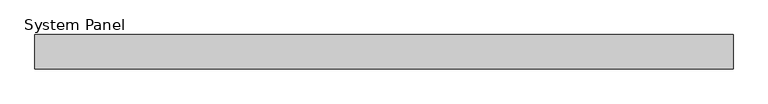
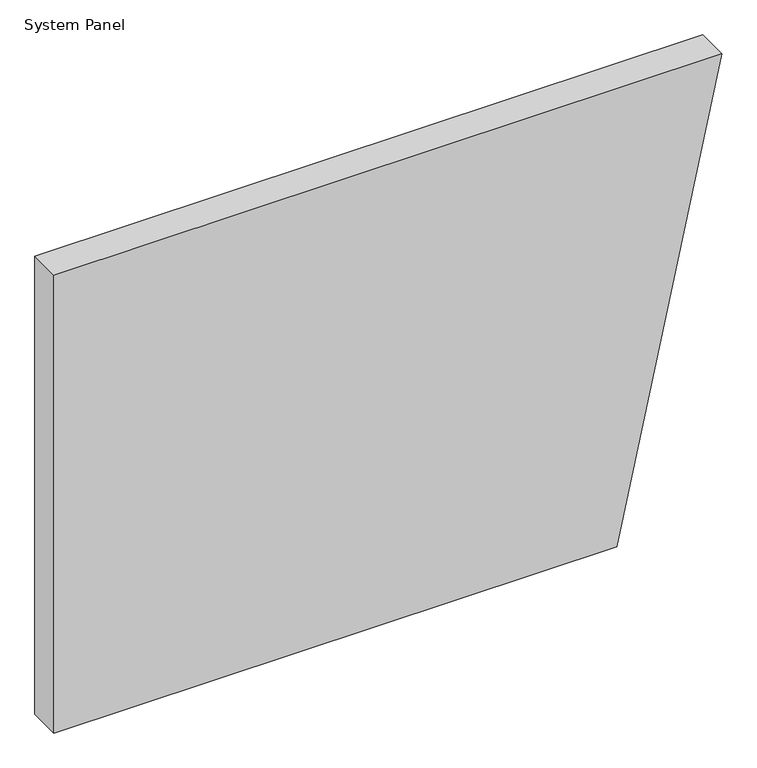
"""IFC4 building model written with IfcOpenShell, lengths in millimetres: plate geometry, System Panel : MetecnoPanel 75mm Horizontal - Plain Astro - PIR."""

from ifc_helpers import new_model, si_unit, frame, origin, place, context, project, spatial, polyline, outline, extrude, source, transform, mapped, element, save


def system_panel_9d3fa14c(model_context):
    return source(origin(), model_context, "Body", "SweptSolid", [
        extrude(outline(polyline([(0.0, -758.698535), (0.0, 519.5661783), (1100.0, 758.698535), (1100.0, -758.698535), (0.0, -758.698535)])), frame((0.0, -75.0, 0.0), z_axis=(0.0, 1.0, 0.0), x_axis=(0.0, 0.0, 1.0)), (0.0, 0.0, 1.0), 75.0),
    ])


if __name__ == "__main__":
    model = new_model("IFC4")
    model_context = context("Model", 3, world=origin())
    ifc_project = project(units=[si_unit("LENGTHUNIT", "METRE", prefix="MILLI")], contexts=[model_context])
    site = spatial("IfcSite", under=ifc_project)
    building = spatial("IfcBuilding", under=site)
    placement = place(None, origin())
    system_panel_shape = system_panel_9d3fa14c(model_context)
    element("IfcPlate", 1, ObjectType="System Panel : MetecnoPanel 75mm Horizontal - Plain Astro - PIR", at=placement, inside=building, context=model_context, shape_type="MappedRepresentation", body=[
        mapped(system_panel_shape, transform((0.0, 0.0, 0.0), x_axis=(1.0, 0.0, 0.0), y_axis=(0.0, 1.0, 0.0), z_axis=(0.0, 0.0, 1.0))),
    ])
    save(model, "model.ifc")
